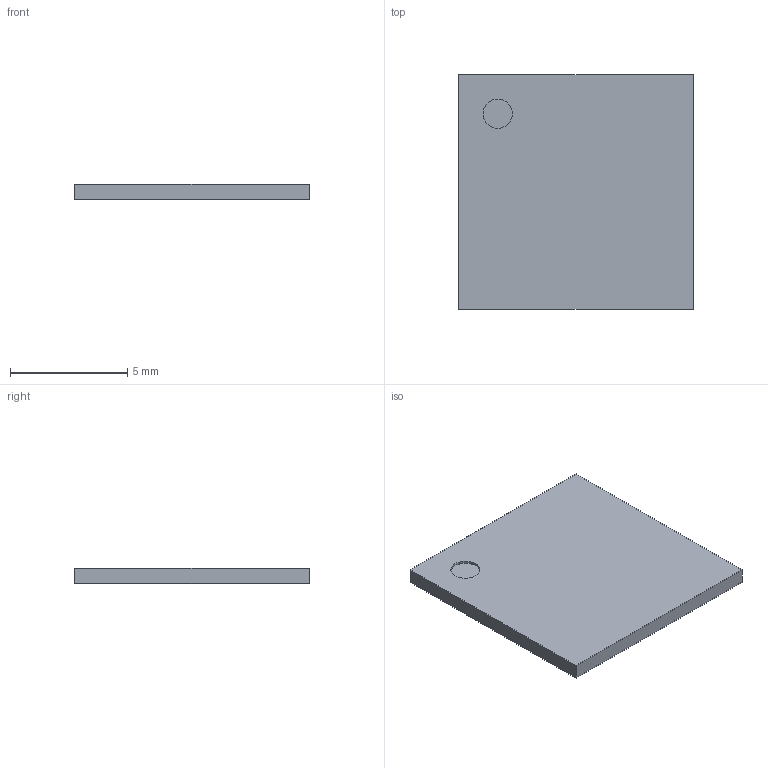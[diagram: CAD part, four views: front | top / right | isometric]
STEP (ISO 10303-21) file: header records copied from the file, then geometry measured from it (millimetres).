
FILE_DESCRIPTION(('Open CASCADE Model'),'2;1');
FILE_NAME('Open CASCADE Shape Model','2022-11-04T16:41:52',('Author'),( 'Open CASCADE'),'Open CASCADE STEP processor 6.8','Open CASCADE 6.8' ,'Unknown');
FILE_SCHEMA(('AUTOMOTIVE_DESIGN { 1 0 10303 214 1 1 1 1 }'));
Length unit declared in the file: millimetre
Products named in the file (5): BGA176C65P15X15_1000X1000X68.step; Open CASCADE STEP translator 6.8 42.1; Body; Open CASCADE STEP translator 6.8 42.2.1; ball
Assembly tree (204 placements, depth 3):
  BGA176C65P15X15_1000X1000X68.step
    Open CASCADE STEP translator 6.8 42.1
    Body
      Open CASCADE STEP translator 6.8 42.2.1
    ball  x201
Bounding box: 10 x 10 x 0.68 mm (x, y, z)
Volume: 66.5 mm3; surface area: 267.1 mm2
Topology: 202 solids, 203 shells, 210 faces, 619 edges, 413 vertices
Faces by surface type: sphere 201, plane 8, cylinder 1
Full cylindrical faces by diameter (mm): 1.25 x1
Entity records: 1947 total; most frequent: DIRECTION 449, CARTESIAN_POINT 243, AXIS2_PLACEMENT_3D 218, PRODUCT_DEFINITION_SHAPE 209, CONTEXT_DEPENDENT_SHAPE_REPRESENTATION 204, ITEM_DEFINED_TRANSFORMATION 204, NEXT_ASSEMBLY_USAGE_OCCURRENCE 204, ORIENTED_EDGE 31
